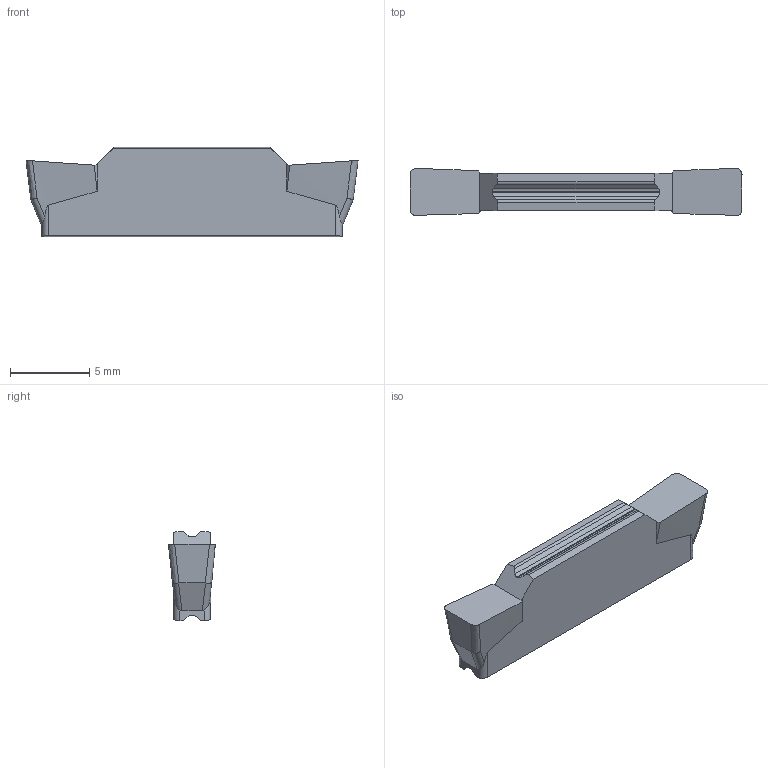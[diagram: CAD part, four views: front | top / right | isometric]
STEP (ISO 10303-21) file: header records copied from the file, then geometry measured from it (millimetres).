
FILE_DESCRIPTION (( 'STEP AP203' ), '1' );
FILE_NAME ('02-0490_HGMN_300-G.STEP', '2022-09-30T14:19:39', ( '' ), ( '' ), 'SwSTEP 2.0', 'SolidWorks 2021', '' );
FILE_SCHEMA (( 'CONFIG_CONTROL_DESIGN' ));
Length unit declared in the file: millimetre
Products named in the file (1): 02-0490_HGMN_300-G
Bounding box: 21 x 2.99 x 5.65 mm (x, y, z)
Volume: 242 mm3; surface area: 334.4 mm2
Topology: 1 solids, 1 shells, 54 faces, 160 edges, 108 vertices
Faces by surface type: plane 34, cylinder 16, bspline 4
Entity records: 2031 total; most frequent: CARTESIAN_POINT 609, ORIENTED_EDGE 320, DIRECTION 230, EDGE_CURVE 160, LINE 112, VECTOR 112, VERTEX_POINT 108, AXIS2_PLACEMENT_3D 59
